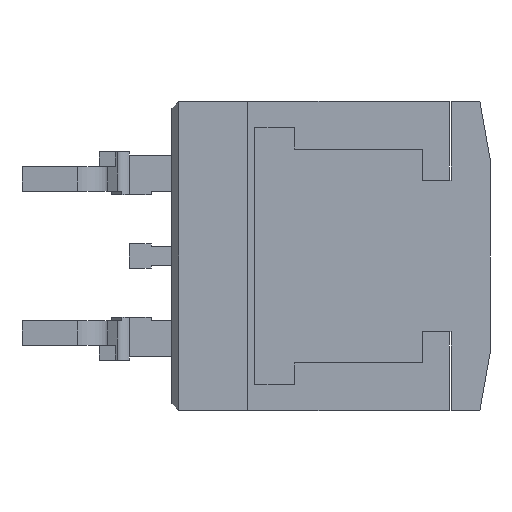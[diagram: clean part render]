
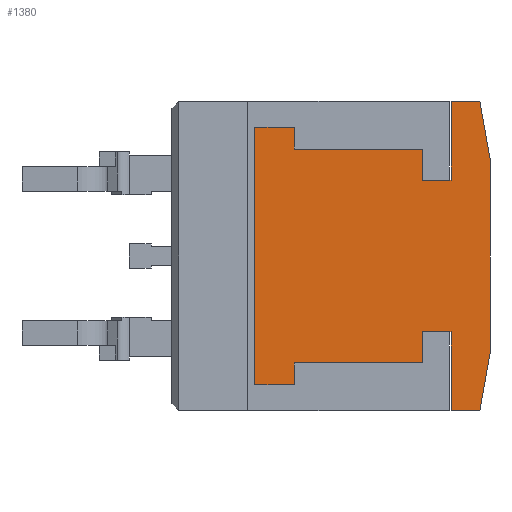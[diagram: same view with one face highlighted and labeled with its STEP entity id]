
A CAD part, front view. The second image highlights one B-rep face of the part: STEP entity #1380.
In plain terms, the highlighted planar face has unit normal (0, -1, 0).
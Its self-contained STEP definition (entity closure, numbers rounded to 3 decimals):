
#17 = ORIENTED_EDGE ( 'NONE', *, *, #2322, .F. ) ;
#32 = EDGE_CURVE ( 'NONE', #2813, #1568, #2635, .T. ) ;
#41 = DIRECTION ( 'NONE',  ( 0., 0., -1. ) ) ;
#69 = LINE ( 'NONE', #801, #2433 ) ;
#79 = DIRECTION ( 'NONE',  ( 0., 0., 1. ) ) ;
#82 = EDGE_CURVE ( 'NONE', #1568, #763, #1123, .T. ) ;
#87 = CARTESIAN_POINT ( 'NONE',  ( 7.712, 0., -3.2 ) ) ;
#133 = ORIENTED_EDGE ( 'NONE', *, *, #1190, .T. ) ;
#147 = ORIENTED_EDGE ( 'NONE', *, *, #673, .T. ) ;
#154 = VECTOR ( 'NONE', #217, 1000. ) ;
#217 = DIRECTION ( 'NONE',  ( -1., 0., 0. ) ) ;
#227 = DIRECTION ( 'NONE',  ( -0.174, 0., -0.985 ) ) ;
#307 = DIRECTION ( 'NONE',  ( 0., 0., -1. ) ) ;
#320 = LINE ( 'NONE', #2312, #2636 ) ;
#345 = VERTEX_POINT ( 'NONE', #2017 ) ;
#353 = CARTESIAN_POINT ( 'NONE',  ( 5.488, 0., -2.5 ) ) ;
#378 = LINE ( 'NONE', #612, #998 ) ;
#398 = VERTEX_POINT ( 'NONE', #3255 ) ;
#401 = ORIENTED_EDGE ( 'NONE', *, *, #1531, .T. ) ;
#407 = VECTOR ( 'NONE', #684, 1000. ) ;
#436 = ORIENTED_EDGE ( 'NONE', *, *, #2728, .T. ) ;
#452 = ORIENTED_EDGE ( 'NONE', *, *, #2855, .F. ) ;
#453 = EDGE_CURVE ( 'NONE', #398, #2724, #1119, .T. ) ;
#475 = VECTOR ( 'NONE', #1569, 1000. ) ;
#512 = CARTESIAN_POINT ( 'NONE',  ( 6.427, 0., -2.5 ) ) ;
#518 = LINE ( 'NONE', #1502, #3003 ) ;
#566 = VECTOR ( 'NONE', #41, 1000. ) ;
#588 = DIRECTION ( 'NONE',  ( -1., 0., 0. ) ) ;
#589 = ORIENTED_EDGE ( 'NONE', *, *, #2486, .F. ) ;
#590 = CARTESIAN_POINT ( 'NONE',  ( 7.712, 0., 3.2 ) ) ;
#612 = CARTESIAN_POINT ( 'NONE',  ( 1.262, 0., -3.525 ) ) ;
#633 = CARTESIAN_POINT ( 'NONE',  ( 1.262, 0., -4.25 ) ) ;
#640 = DIRECTION ( 'NONE',  ( 0., 0., -1. ) ) ;
#673 = EDGE_CURVE ( 'NONE', #3156, #2697, #690, .T. ) ;
#684 = DIRECTION ( 'NONE',  ( 1., 0., 0. ) ) ;
#690 = LINE ( 'NONE', #971, #1066 ) ;
#694 = LINE ( 'NONE', #3166, #2524 ) ;
#716 = VERTEX_POINT ( 'NONE', #857 ) ;
#719 = DIRECTION ( 'NONE',  ( 1., 0., 0. ) ) ;
#751 = LINE ( 'NONE', #2766, #1577 ) ;
#754 = CARTESIAN_POINT ( 'NONE',  ( 6.427, 0., -5.1 ) ) ;
#757 = LINE ( 'NONE', #1286, #2847 ) ;
#763 = VERTEX_POINT ( 'NONE', #1801 ) ;
#801 = CARTESIAN_POINT ( 'NONE',  ( 5.488, 0., 2.5 ) ) ;
#839 = AXIS2_PLACEMENT_3D ( 'NONE', #1089, #2357, #307 ) ;
#857 = CARTESIAN_POINT ( 'NONE',  ( 7.377, 0., -5.1 ) ) ;
#865 = LINE ( 'NONE', #1632, #1114 ) ;
#932 = VERTEX_POINT ( 'NONE', #1377 ) ;
#971 = CARTESIAN_POINT ( 'NONE',  ( 1.262, 0., -4.25 ) ) ;
#990 = VERTEX_POINT ( 'NONE', #3275 ) ;
#991 = ORIENTED_EDGE ( 'NONE', *, *, #1044, .F. ) ;
#998 = VECTOR ( 'NONE', #1379, 1000. ) ;
#1031 = ORIENTED_EDGE ( 'NONE', *, *, #453, .F. ) ;
#1043 = VECTOR ( 'NONE', #2418, 1000. ) ;
#1044 = EDGE_CURVE ( 'NONE', #716, #1046, #1256, .T. ) ;
#1046 = VERTEX_POINT ( 'NONE', #2018 ) ;
#1055 = CARTESIAN_POINT ( 'NONE',  ( -0.038, 0., 4.25 ) ) ;
#1066 = VECTOR ( 'NONE', #719, 1000. ) ;
#1085 = DIRECTION ( 'NONE',  ( 0., 0., -1. ) ) ;
#1089 = CARTESIAN_POINT ( 'NONE',  ( 0., 0., 0. ) ) ;
#1114 = VECTOR ( 'NONE', #1868, 1000. ) ;
#1119 = LINE ( 'NONE', #353, #1647 ) ;
#1120 = ORIENTED_EDGE ( 'NONE', *, *, #1976, .T. ) ;
#1123 = LINE ( 'NONE', #87, #2008 ) ;
#1190 = EDGE_CURVE ( 'NONE', #932, #1870, #320, .T. ) ;
#1232 = LINE ( 'NONE', #754, #2845 ) ;
#1256 = LINE ( 'NONE', #2777, #154 ) ;
#1283 = ORIENTED_EDGE ( 'NONE', *, *, #3146, .F. ) ;
#1286 = CARTESIAN_POINT ( 'NONE',  ( 7.712, 0., -3.2 ) ) ;
#1330 = FACE_OUTER_BOUND ( 'NONE', #2096, .T. ) ;
#1377 = CARTESIAN_POINT ( 'NONE',  ( 1.262, 0., 4.25 ) ) ;
#1379 = DIRECTION ( 'NONE',  ( 0., 0., 1. ) ) ;
#1380 = ADVANCED_FACE ( 'NONE', ( #1330 ), #2624, .T. ) ;
#1453 = VECTOR ( 'NONE', #79, 1000. ) ;
#1483 = ORIENTED_EDGE ( 'NONE', *, *, #2310, .F. ) ;
#1502 = CARTESIAN_POINT ( 'NONE',  ( 7.377, 0., 5.1 ) ) ;
#1531 = EDGE_CURVE ( 'NONE', #2012, #932, #694, .T. ) ;
#1568 = VERTEX_POINT ( 'NONE', #2489 ) ;
#1569 = DIRECTION ( 'NONE',  ( 1., 0., 0. ) ) ;
#1576 = CARTESIAN_POINT ( 'NONE',  ( 1.262, 0., 3.525 ) ) ;
#1577 = VECTOR ( 'NONE', #1766, 1000. ) ;
#1632 = CARTESIAN_POINT ( 'NONE',  ( 0., 0., -3.525 ) ) ;
#1647 = VECTOR ( 'NONE', #640, 1000. ) ;
#1756 = CARTESIAN_POINT ( 'NONE',  ( 1.262, 0., -3.525 ) ) ;
#1766 = DIRECTION ( 'NONE',  ( -1., 0., 0. ) ) ;
#1801 = CARTESIAN_POINT ( 'NONE',  ( 7.712, 0., -3.2 ) ) ;
#1817 = CARTESIAN_POINT ( 'NONE',  ( 7.377, 0., 5.1 ) ) ;
#1832 = VERTEX_POINT ( 'NONE', #1756 ) ;
#1837 = CARTESIAN_POINT ( 'NONE',  ( 6.427, 0., 2.5 ) ) ;
#1866 = ORIENTED_EDGE ( 'NONE', *, *, #2401, .F. ) ;
#1868 = DIRECTION ( 'NONE',  ( 1., 0., 0. ) ) ;
#1870 = VERTEX_POINT ( 'NONE', #1055 ) ;
#1937 = EDGE_CURVE ( 'NONE', #1046, #3001, #1232, .T. ) ;
#1968 = VERTEX_POINT ( 'NONE', #2237 ) ;
#1976 = EDGE_CURVE ( 'NONE', #2697, #1832, #378, .T. ) ;
#2008 = VECTOR ( 'NONE', #2149, 1000. ) ;
#2012 = VERTEX_POINT ( 'NONE', #1576 ) ;
#2017 = CARTESIAN_POINT ( 'NONE',  ( 6.427, 0., 2.5 ) ) ;
#2018 = CARTESIAN_POINT ( 'NONE',  ( 6.427, 0., -5.1 ) ) ;
#2027 = ORIENTED_EDGE ( 'NONE', *, *, #32, .F. ) ;
#2094 = CARTESIAN_POINT ( 'NONE',  ( 6.427, 0., 5.1 ) ) ;
#2096 = EDGE_LOOP ( 'NONE', ( #2928, #1866, #452, #401, #133, #2725, #147, #1120, #436, #1031, #1483, #2543, #991, #589, #3202, #2027, #17, #1283 ) ) ;
#2115 = CARTESIAN_POINT ( 'NONE',  ( 5.488, 0., -3.525 ) ) ;
#2142 = CARTESIAN_POINT ( 'NONE',  ( -0.038, 0., -4.25 ) ) ;
#2149 = DIRECTION ( 'NONE',  ( 0., 0., -1. ) ) ;
#2192 = VERTEX_POINT ( 'NONE', #2656 ) ;
#2237 = CARTESIAN_POINT ( 'NONE',  ( 6.427, 0., 5.1 ) ) ;
#2275 = LINE ( 'NONE', #2306, #566 ) ;
#2294 = LINE ( 'NONE', #1837, #475 ) ;
#2299 = DIRECTION ( 'NONE',  ( 0., 0., 1. ) ) ;
#2306 = CARTESIAN_POINT ( 'NONE',  ( -0.038, 0., 4.25 ) ) ;
#2310 = EDGE_CURVE ( 'NONE', #3001, #398, #751, .T. ) ;
#2312 = CARTESIAN_POINT ( 'NONE',  ( 1.262, 0., 4.25 ) ) ;
#2322 = EDGE_CURVE ( 'NONE', #1968, #2813, #518, .T. ) ;
#2357 = DIRECTION ( 'NONE',  ( 0., -1., 0. ) ) ;
#2401 = EDGE_CURVE ( 'NONE', #990, #2192, #69, .T. ) ;
#2418 = DIRECTION ( 'NONE',  ( 0.174, 0., -0.985 ) ) ;
#2433 = VECTOR ( 'NONE', #1085, 1000. ) ;
#2486 = EDGE_CURVE ( 'NONE', #763, #716, #757, .T. ) ;
#2489 = CARTESIAN_POINT ( 'NONE',  ( 7.712, 0., 3.2 ) ) ;
#2524 = VECTOR ( 'NONE', #2921, 1000. ) ;
#2543 = ORIENTED_EDGE ( 'NONE', *, *, #1937, .F. ) ;
#2578 = LINE ( 'NONE', #2094, #1453 ) ;
#2624 = PLANE ( 'NONE',  #839 ) ;
#2635 = LINE ( 'NONE', #590, #1043 ) ;
#2636 = VECTOR ( 'NONE', #588, 1000. ) ;
#2656 = CARTESIAN_POINT ( 'NONE',  ( 5.488, 0., 2.5 ) ) ;
#2697 = VERTEX_POINT ( 'NONE', #633 ) ;
#2724 = VERTEX_POINT ( 'NONE', #2115 ) ;
#2725 = ORIENTED_EDGE ( 'NONE', *, *, #2992, .T. ) ;
#2728 = EDGE_CURVE ( 'NONE', #1832, #2724, #865, .T. ) ;
#2766 = CARTESIAN_POINT ( 'NONE',  ( 6.427, 0., -2.5 ) ) ;
#2777 = CARTESIAN_POINT ( 'NONE',  ( 7.377, 0., -5.1 ) ) ;
#2781 = DIRECTION ( 'NONE',  ( 1., 0., 0. ) ) ;
#2793 = EDGE_CURVE ( 'NONE', #2192, #345, #2294, .T. ) ;
#2813 = VERTEX_POINT ( 'NONE', #1817 ) ;
#2815 = CARTESIAN_POINT ( 'NONE',  ( 0., 0., 3.525 ) ) ;
#2845 = VECTOR ( 'NONE', #2299, 1000. ) ;
#2847 = VECTOR ( 'NONE', #227, 1000. ) ;
#2855 = EDGE_CURVE ( 'NONE', #2012, #990, #3055, .T. ) ;
#2921 = DIRECTION ( 'NONE',  ( 0., 0., 1. ) ) ;
#2928 = ORIENTED_EDGE ( 'NONE', *, *, #2793, .F. ) ;
#2992 = EDGE_CURVE ( 'NONE', #1870, #3156, #2275, .T. ) ;
#3001 = VERTEX_POINT ( 'NONE', #512 ) ;
#3003 = VECTOR ( 'NONE', #2781, 1000. ) ;
#3055 = LINE ( 'NONE', #2815, #407 ) ;
#3146 = EDGE_CURVE ( 'NONE', #345, #1968, #2578, .T. ) ;
#3156 = VERTEX_POINT ( 'NONE', #2142 ) ;
#3166 = CARTESIAN_POINT ( 'NONE',  ( 1.262, 0., 3.525 ) ) ;
#3202 = ORIENTED_EDGE ( 'NONE', *, *, #82, .F. ) ;
#3255 = CARTESIAN_POINT ( 'NONE',  ( 5.488, 0., -2.5 ) ) ;
#3275 = CARTESIAN_POINT ( 'NONE',  ( 5.488, 0., 3.525 ) ) ;
